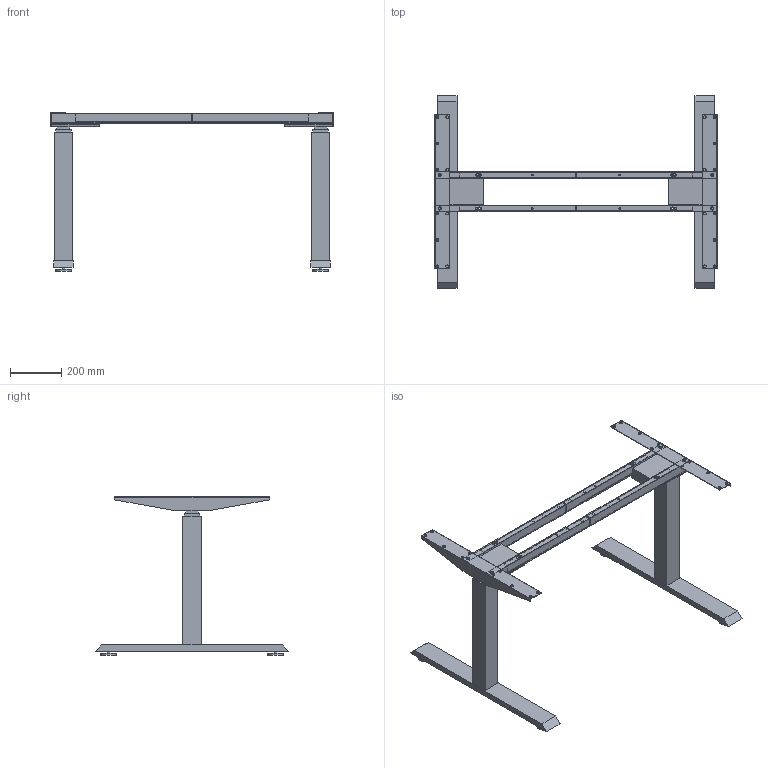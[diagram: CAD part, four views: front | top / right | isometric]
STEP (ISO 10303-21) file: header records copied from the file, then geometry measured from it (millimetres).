
FILE_DESCRIPTION( ( 'STEP AP214' ), '1' );
FILE_NAME( 'D:/Yug/2022/Actiforce_2022/QC/9309754.stp', '2022-03-02T07:43:17', ( '' ), ( '' ), ' ', 'PARTsolutions', ' ' );
FILE_SCHEMA( ( 'AUTOMOTIVE_DESIGN { 1 0 10303 214 1 1 1 1 }' ) );
Length unit declared in the file: millimetre
Products named in the file (6): 9309754(W1100XH521); _foot_sf_470_1100_521; _column_sf_470_521; _housing_plate_sf_470; _top_support_sf_470; _crossbar_sf_570
Assembly tree (10 placements, depth 2):
  9309754(W1100XH521)
    _foot_sf_470_1100_521  x2
    _column_sf_470_521  x2
    _housing_plate_sf_470  x2
    _top_support_sf_470  x2
    _crossbar_sf_570  x2
Bounding box: 1100 x 750 x 617 mm (x, y, z)
Volume: 10789305.3 mm3; surface area: 1832237.1 mm2
Topology: 10 solids, 10 shells, 318 faces, 750 edges, 504 vertices
Faces by surface type: plane 208, cylinder 110
Full cylindrical faces by diameter (mm): 6.5 x6, 6.8 x8, 7 x8, 10 x20, 10.5 x20, 12 x8, 12.7 x4, 13.46 x8, 17.06 x8, 17.4 x8, 59.84 x4
Entity records: 5816 total; most frequent: DIRECTION 768, CARTESIAN_POINT 734, ORIENTED_EDGE 636, EDGE_CURVE 318, EDGE_LOOP 298, AXIS2_PLACEMENT_3D 280, VERTEX_POINT 246, FACE_OUTER_BOUND 210
